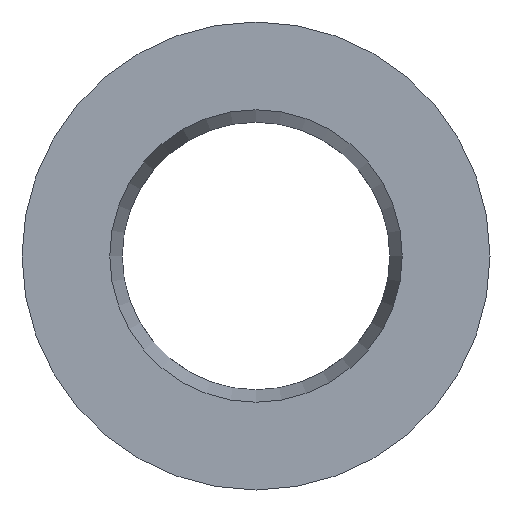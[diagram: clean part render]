
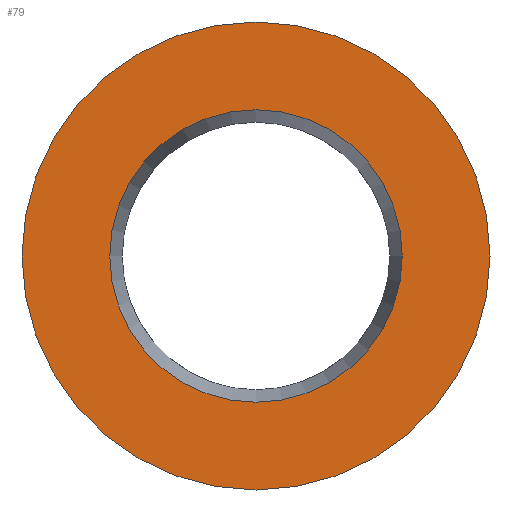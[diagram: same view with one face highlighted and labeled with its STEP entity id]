
A CAD part, front view. The second image highlights one B-rep face of the part: STEP entity #79.
In plain terms, the highlighted planar face has unit normal (0, -1, 0).
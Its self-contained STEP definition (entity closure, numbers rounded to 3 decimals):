
#79 = ADVANCED_FACE( '', ( #94, #95 ), #96, .T. );
#94 = FACE_OUTER_BOUND( '', #112, .T. );
#95 = FACE_BOUND( '', #113, .T. );
#96 = PLANE( '', #114 );
#112 = EDGE_LOOP( '', ( #138 ) );
#113 = EDGE_LOOP( '', ( #139 ) );
#114 = AXIS2_PLACEMENT_3D( '', #140, #141, #142 );
#138 = ORIENTED_EDGE( '', *, *, #153, .T. );
#139 = ORIENTED_EDGE( '', *, *, #152, .F. );
#140 = CARTESIAN_POINT( '', ( 4., 0., 0. ) );
#141 = DIRECTION( '', ( 0., -1., 0. ) );
#142 = DIRECTION( '', ( 0., 0., -1. ) );
#152 = EDGE_CURVE( '', #162, #162, #163, .T. );
#153 = EDGE_CURVE( '', #164, #164, #165, .T. );
#162 = VERTEX_POINT( '', #174 );
#163 = CIRCLE( '', #175, 4. );
#164 = VERTEX_POINT( '', #176 );
#165 = CIRCLE( '', #177, 6.4 );
#174 = CARTESIAN_POINT( '', ( 0., 0., -4. ) );
#175 = AXIS2_PLACEMENT_3D( '', #190, #191, #192 );
#176 = CARTESIAN_POINT( '', ( 0., 0., -6.4 ) );
#177 = AXIS2_PLACEMENT_3D( '', #193, #194, #195 );
#190 = CARTESIAN_POINT( '', ( 0., 0., 0. ) );
#191 = DIRECTION( '', ( 0., -1., 0. ) );
#192 = DIRECTION( '', ( 0., 0., -1. ) );
#193 = CARTESIAN_POINT( '', ( 0., 0., 0. ) );
#194 = DIRECTION( '', ( 0., -1., 0. ) );
#195 = DIRECTION( '', ( 0., 0., -1. ) );
